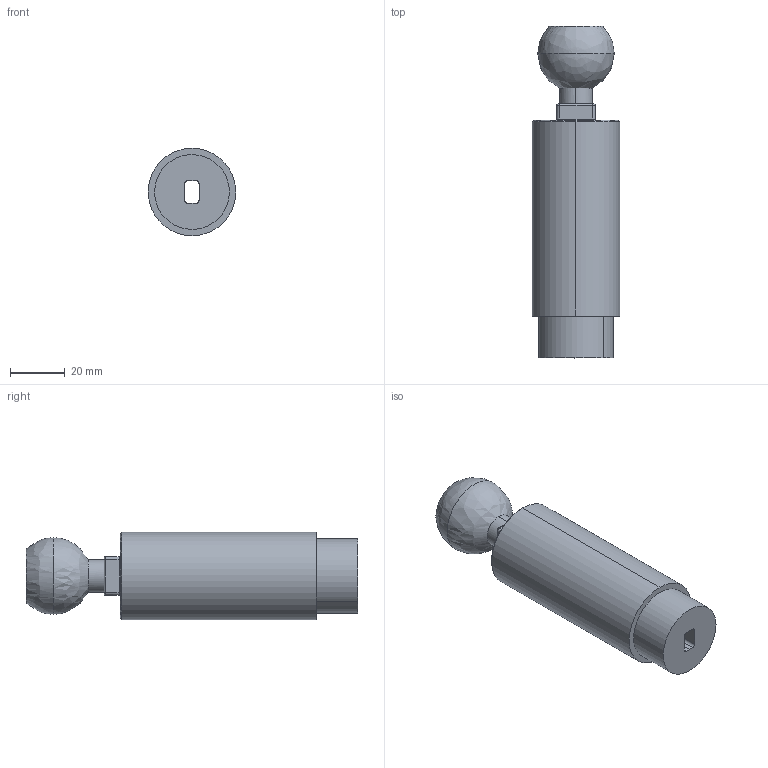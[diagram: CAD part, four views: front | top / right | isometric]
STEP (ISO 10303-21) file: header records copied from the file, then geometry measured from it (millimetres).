
FILE_DESCRIPTION(/* description */ (''),/* implementation_level */ '2;1');
FILE_NAME(/* name */ 'Funivia - Tensioner',/* time_stamp */ '2022-08-29T17:21:43+02:00',/* author */ (''),/* organization */ (''),/* preprocessor_version */ 'ST-DEVELOPER v16.5',/* originating_system */ 'Rhino 7.17',/* authorisation */ '');
FILE_SCHEMA (('AUTOMOTIVE_DESIGN'));
Length unit declared in the file: millimetre
Products named in the file (1): Document
Bounding box: 31.99 x 121.29 x 32 mm (x, y, z)
Volume: 63004.4 mm3; surface area: 16897.1 mm2
Topology: 2 solids, 3 shells, 80 faces, 191 edges, 116 vertices
Faces by surface type: bspline 34, plane 24, cylinder 22
Entity records: 2819 total; most frequent: CARTESIAN_POINT 1600, ORIENTED_EDGE 368, EDGE_CURVE 186, VERTEX_POINT 114, EDGE_LOOP 88, B_SPLINE_CURVE_WITH_KNOTS 85, ADVANCED_FACE 80, FACE_OUTER_BOUND 80
